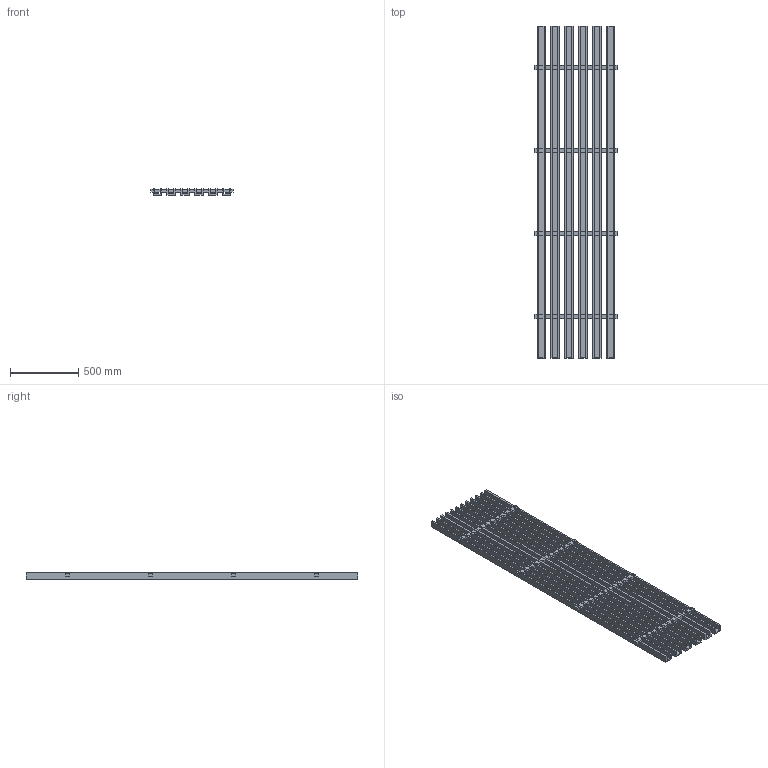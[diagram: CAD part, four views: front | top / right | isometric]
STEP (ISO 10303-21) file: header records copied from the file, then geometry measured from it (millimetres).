
FILE_DESCRIPTION(/* description */ (''),/* implementation_level */ '2;1');
FILE_NAME(/* name */ 'PET GRILLA_2.5x2_8ft',/* time_stamp */ '2024-10-15T14:21:42-05:00',/* author */ (''),/* organization */ (''),/* preprocessor_version */ 'ST-DEVELOPER v19.2',/* originating_system */ 'Rhino 8.4',/* authorisation */ '');
FILE_SCHEMA (('CONFIG_CONTROL_DESIGN'));
Length unit declared in the file: inch
Products named in the file (1): Document
Bounding box: 603.25 x 2438.4 x 50.8 mm (x, y, z)
Volume: 27047873.3 mm3; surface area: 4610635.9 mm2
Topology: 1 solids, 1 shells, 276 faces, 768 edges, 512 vertices
Faces by surface type: plane 276
Entity records: 7852 total; most frequent: CARTESIAN_POINT 2326, ORIENTED_EDGE 1536, EDGE_CURVE 768, B_SPLINE_CURVE_WITH_KNOTS 768, VERTEX_POINT 512, EDGE_LOOP 372, DIRECTION 280, AXIS2_PLACEMENT_3D 278
